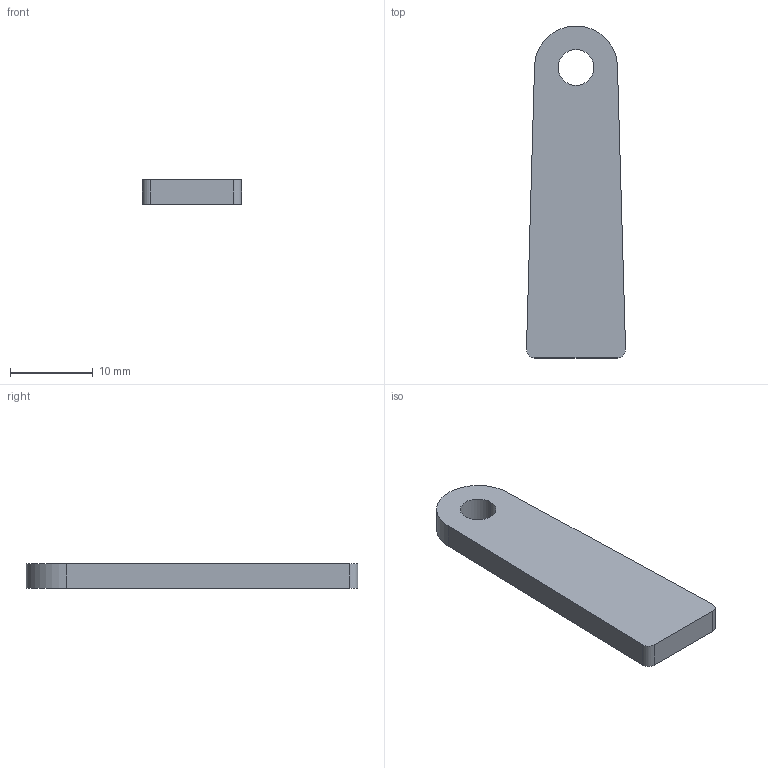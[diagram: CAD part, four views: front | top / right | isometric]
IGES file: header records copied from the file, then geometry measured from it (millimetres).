
Start section: START RECORD GO HERE.
Global section: file name: 20_M_EN_1200_018 (Chape frame).igs; native system: 44HIBM CATIA IGES - CATIA Version 5 Release 19; preprocessor: CATIA Version 5 Release 19 ; author: Calixthe; organization: MACHINEDECALOU; date: 20200123.100102; units: millimetre
Bounding box: 11.94 x 40 x 3 mm (x, y, z)
Surface area: 1149.7 mm2 (no closed solid volume)
Topology: 0 solids, 0 shells, 10 faces, 49 edges, 50 vertices
Faces by surface type: revolution 5, plane 5
